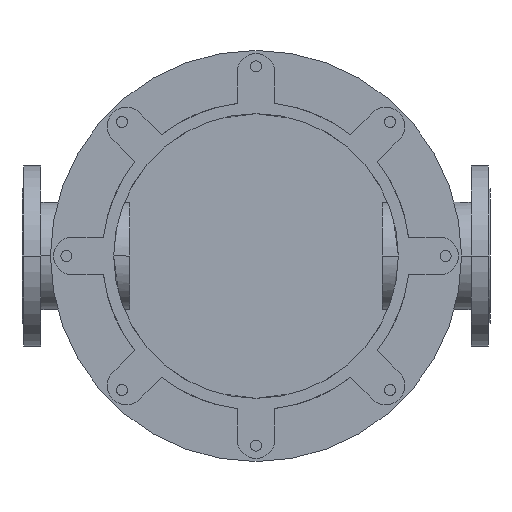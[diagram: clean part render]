
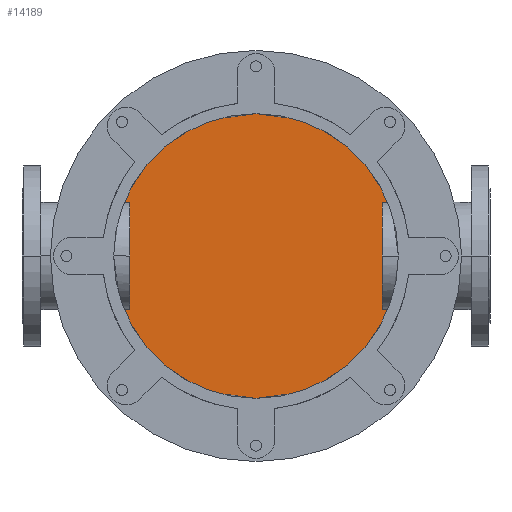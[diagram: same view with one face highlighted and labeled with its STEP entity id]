
A CAD part, front view. The second image highlights one B-rep face of the part: STEP entity #14189.
In plain terms, the highlighted planar face has unit normal (0, -1, 0).
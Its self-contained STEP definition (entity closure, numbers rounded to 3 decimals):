
#2806=CARTESIAN_POINT('',(0.,1004.,0.));
#2807=DIRECTION('',(0.,-1.,0.));
#2808=DIRECTION('',(0.,0.,1.));
#2809=AXIS2_PLACEMENT_3D('',#2806,#2807,#2808);
#2933=CARTESIAN_POINT('',(0.,1004.,0.));
#2934=DIRECTION('',(0.,-1.,0.));
#2935=DIRECTION('',(0.,0.,-1.));
#2936=AXIS2_PLACEMENT_3D('',#2933,#2934,#2935);
#9182=CARTESIAN_POINT('',(0.,1004.,240.));
#9183=CARTESIAN_POINT('',(0.,1004.,-240.));
#9184=VERTEX_POINT('',#9182);
#9185=VERTEX_POINT('',#9183);
#14179=CARTESIAN_POINT('',(0.,1004.,0.));
#14180=DIRECTION('',(0.,1.,0.));
#14181=DIRECTION('',(0.,0.,-1.));
#14182=AXIS2_PLACEMENT_3D('',#14179,#14180,#14181);
#14183=PLANE('',#14182);
#14184=ORIENTED_EDGE('',*,*,#14163,.F.);
#14186=ORIENTED_EDGE('',*,*,#14185,.F.);
#14187=EDGE_LOOP('',(#14184,#14186));
#14188=FACE_OUTER_BOUND('',#14187,.F.);
#14189=ADVANCED_FACE('',(#14188),#14183,.F.);
#2810=CIRCLE('',#2809,240.);
#2937=CIRCLE('',#2936,240.);
#14163=EDGE_CURVE('',#9184,#9185,#2810,.T.);
#14185=EDGE_CURVE('',#9185,#9184,#2937,.T.);
